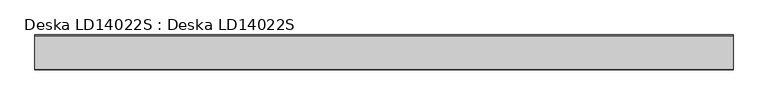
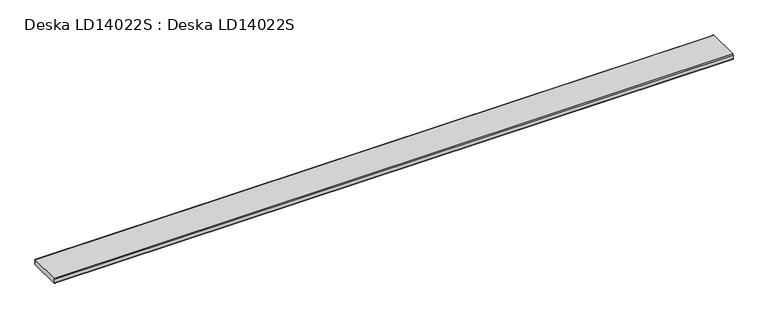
"""IFC4 building model written with IfcOpenShell, lengths in millimetres: proxy geometry, Deska LD14022S : Deska LD14022S."""

from ifc_helpers import new_model, si_unit, point, frame, frame_2d, origin, place, context, project, spatial, polyline, circle_curve, trimmed, segment, composite_curve, outline, extrude, source, transform, mapped, element, save


def deska_ld14022s_deska_ld14022s_a65ad6c5(model_context):
    return source(origin(), model_context, "Body", "SweptSolid", [
        extrude(outline(composite_curve([segment(polyline([(-7.0, 14.5), (-7.0, 7.5), (0.0, 7.5), (0.0, 3.0)]), True, "CONTINUOUS"), segment(trimmed(circle_curve(frame_2d((-3.0, 3.0)), 3.0), [point((0.0, 3.0))], [point((-3.0, 0.0))], False, "CARTESIAN"), True, "CONTINUOUS"), segment(polyline([(-3.0, 0.0), (-137.0, 0.0)]), True, "CONTINUOUS"), segment(trimmed(circle_curve(frame_2d((-137.0, 3.0)), 3.0), [point((-137.0, 0.0))], [point((-140.0, 3.0))], False, "CARTESIAN"), True, "CONTINUOUS"), segment(polyline([(-140.0, 3.0), (-140.0, 19.0)]), True, "CONTINUOUS"), segment(trimmed(circle_curve(frame_2d((-137.0, 19.0)), 3.0), [point((-140.0, 19.0))], [point((-137.0, 22.0))], False, "CARTESIAN"), True, "CONTINUOUS"), segment(polyline([(-137.0, 22.0), (-3.0, 22.0)]), True, "CONTINUOUS"), segment(trimmed(circle_curve(frame_2d((-3.0, 19.0)), 3.0), [point((-3.0, 22.0))], [point((0.0, 19.0))], False, "CARTESIAN"), True, "CONTINUOUS"), segment(polyline([(0.0, 19.0), (0.0, 14.5), (-7.0, 14.5)]), True, "CONTINUOUS")], self_intersect=False)), frame((0.0, 0.0, 0.0), z_axis=(1.0, 0.0, 0.0), x_axis=(0.0, 1.0, 0.0)), (0.0, 0.0, 1.0), 2800.0),
    ])


if __name__ == "__main__":
    model = new_model("IFC4")
    model_context = context("Model", 3, world=origin())
    ifc_project = project(units=[si_unit("LENGTHUNIT", "METRE", prefix="MILLI")], contexts=[model_context])
    site = spatial("IfcSite", under=ifc_project)
    building = spatial("IfcBuilding", under=site)
    placement = place(None, origin())
    deska_ld14022s_deska_ld14022s_shape = deska_ld14022s_deska_ld14022s_a65ad6c5(model_context)
    element("IfcBuildingElementProxy", 1, Name="Deska LD14022S : Deska LD14022S", ObjectType="Deska LD14022S : Deska LD14022S", at=placement, inside=building, context=model_context, shape_type="MappedRepresentation", body=[
        mapped(deska_ld14022s_deska_ld14022s_shape, transform((0.0, 0.0, 0.0), x_axis=(1.0, 0.0, 0.0), y_axis=(0.0, 1.0, 0.0), z_axis=(0.0, 0.0, 1.0))),
    ])
    save(model, "model.ifc")
